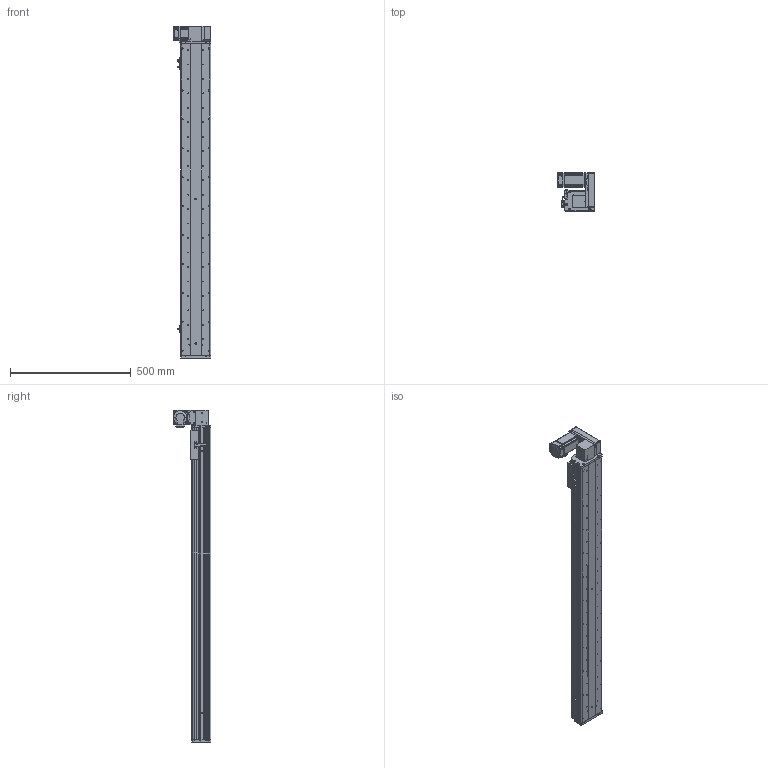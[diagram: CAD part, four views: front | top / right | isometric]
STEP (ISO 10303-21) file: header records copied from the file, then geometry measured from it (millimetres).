
FILE_DESCRIPTION (( 'STEP AP214' ), '1' );
FILE_NAME ('KSD125B-S1100-MLU-CM.STEP', '2017-10-21T03:31:12', ( '微软用户' ), ( '微软中国' ), 'SwSTEP 2.0', 'SolidWorks 2014', '' );
FILE_SCHEMA (( 'AUTOMOTIVE_DESIGN' ));
Length unit declared in the file: millimetre
Products named in the file (17): U倰嫖萇EEㄜSX672; KSD125模组同步带-防撞垫1; 前端板-125宽模组同步带; 125模组同步带-尾端板1; KSD125模组同步带-滑动座1; KSD125B-S1100-MLU-CM; 悵誘欶奻狟殏; 100宽马达安装板连板上下折丝杆同步带; HTPA30S3M150_A_H6_a佪裝蚚; HTPA30S3M150_A_H6_a萇儂蚚; 100宽马达安装板同步带左; KSD125模组1100行程同步带-防尘盖; 125模组1100行程同步带-底板; MHMD042G1CA_2_03; KSD125模组同步带-防撞垫2; 覜茼え68遵圉猾敕; U倰嫖萇假蚾璃
Assembly tree (20 placements, depth 2):
  KSD125B-S1100-MLU-CM
    KSD125模组同步带-滑动座1
    125模组同步带-尾端板1
    前端板-125宽模组同步带
    KSD125模组同步带-防撞垫1
    U倰嫖萇EEㄜSX672  x3
    U倰嫖萇假蚾璃  x3
    覜茼え68遵圉猾敕
    KSD125模组同步带-防撞垫2
    MHMD042G1CA_2_03
    125模组1100行程同步带-底板
    KSD125模组1100行程同步带-防尘盖
    100宽马达安装板同步带左
    HTPA30S3M150_A_H6_a萇儂蚚
    HTPA30S3M150_A_H6_a佪裝蚚
    100宽马达安装板连板上下折丝杆同步带
    悵誘欶奻狟殏
Bounding box: 155 x 157.5 x 1377 mm (x, y, z)
Volume: 4192639.2 mm3; surface area: 1404653 mm2
Topology: 19 solids, 22 shells, 2329 faces, 6751 edges, 4462 vertices
Faces by surface type: cylinder 1472, plane 730, cone 105, bspline 22
Entity records: 83093 total; most frequent: CARTESIAN_POINT 16377, DIRECTION 12912, ORIENTED_EDGE 12022, EDGE_CURVE 6089, AXIS2_PLACEMENT_3D 5001, VERTEX_POINT 4054, VECTOR 2910, LINE 2910
